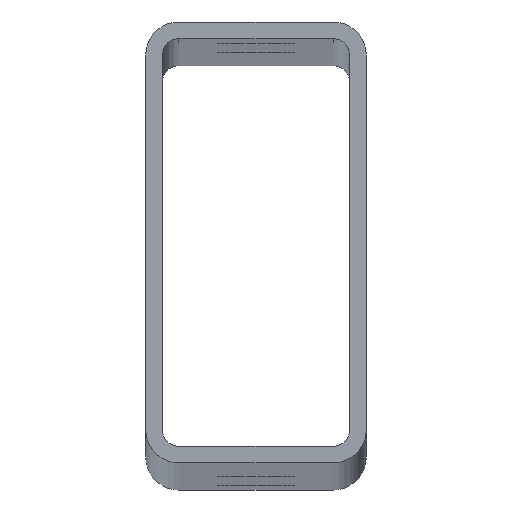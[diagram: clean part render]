
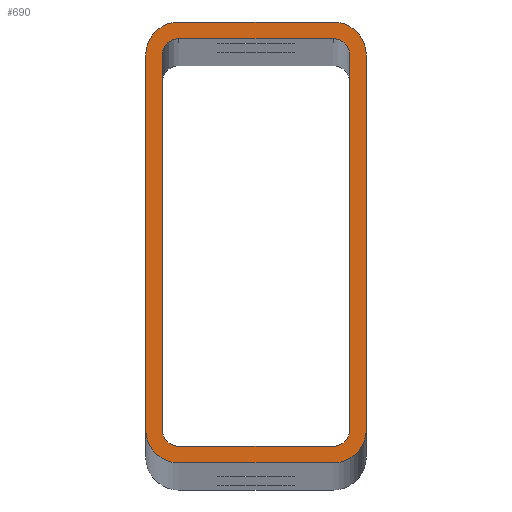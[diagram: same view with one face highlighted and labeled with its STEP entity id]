
A CAD part, top view. The second image highlights one B-rep face of the part: STEP entity #690.
In plain terms, the highlighted planar face has unit normal (0, 0, 1).
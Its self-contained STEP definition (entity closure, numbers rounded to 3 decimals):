
#5 = FACE_BOUND ( 'NONE', #612, .T. ) ;
#20 = FACE_OUTER_BOUND ( 'NONE', #1649, .T. ) ;
#27 = AXIS2_PLACEMENT_3D ( 'NONE', #1118, #1149, #484 ) ;
#34 = VERTEX_POINT ( 'NONE', #929 ) ;
#37 = CARTESIAN_POINT ( 'NONE',  ( -10., 17., 705. ) ) ;
#40 = CARTESIAN_POINT ( 'NONE',  ( 7., -17., 705. ) ) ;
#41 = LINE ( 'NONE', #419, #355 ) ;
#42 = AXIS2_PLACEMENT_3D ( 'NONE', #725, #887, #91 ) ;
#47 = CARTESIAN_POINT ( 'NONE',  ( 7., 20., 705. ) ) ;
#52 = EDGE_CURVE ( 'NONE', #1428, #1482, #520, .T. ) ;
#53 = LINE ( 'NONE', #1364, #1116 ) ;
#91 = DIRECTION ( 'NONE',  ( -1., 0., 0. ) ) ;
#121 = CARTESIAN_POINT ( 'NONE',  ( -7., -18.5, 705. ) ) ;
#123 = ORIENTED_EDGE ( 'NONE', *, *, #586, .T. ) ;
#141 = CARTESIAN_POINT ( 'NONE',  ( 10., -17., 705. ) ) ;
#144 = DIRECTION ( 'NONE',  ( 0., 0., 1. ) ) ;
#148 = VERTEX_POINT ( 'NONE', #956 ) ;
#164 = EDGE_CURVE ( 'NONE', #658, #1214, #41, .T. ) ;
#168 = CARTESIAN_POINT ( 'NONE',  ( 7., -17., 705. ) ) ;
#185 = DIRECTION ( 'NONE',  ( -1., 0., 0. ) ) ;
#198 = EDGE_CURVE ( 'NONE', #1214, #428, #933, .T. ) ;
#201 = VERTEX_POINT ( 'NONE', #449 ) ;
#207 = CIRCLE ( 'NONE', #1241, 1.5 ) ;
#254 = CARTESIAN_POINT ( 'NONE',  ( 7., 20., 705. ) ) ;
#257 = ORIENTED_EDGE ( 'NONE', *, *, #302, .F. ) ;
#278 = DIRECTION ( 'NONE',  ( 0., -1., 0. ) ) ;
#283 = DIRECTION ( 'NONE',  ( 0., 0., 1. ) ) ;
#284 = ORIENTED_EDGE ( 'NONE', *, *, #594, .T. ) ;
#285 = ORIENTED_EDGE ( 'NONE', *, *, #793, .F. ) ;
#302 = EDGE_CURVE ( 'NONE', #34, #1242, #901, .T. ) ;
#306 = DIRECTION ( 'NONE',  ( -1., 0., 0. ) ) ;
#312 = VERTEX_POINT ( 'NONE', #720 ) ;
#321 = VECTOR ( 'NONE', #1370, 1000. ) ;
#355 = VECTOR ( 'NONE', #697, 1000. ) ;
#357 = VERTEX_POINT ( 'NONE', #846 ) ;
#361 = CARTESIAN_POINT ( 'NONE',  ( -7., -20., 705. ) ) ;
#394 = ORIENTED_EDGE ( 'NONE', *, *, #803, .F. ) ;
#398 = CARTESIAN_POINT ( 'NONE',  ( -7., 18.5, 705. ) ) ;
#419 = CARTESIAN_POINT ( 'NONE',  ( 7., -20., 705. ) ) ;
#428 = VERTEX_POINT ( 'NONE', #141 ) ;
#442 = CARTESIAN_POINT ( 'NONE',  ( 8.5, 17., 705. ) ) ;
#449 = CARTESIAN_POINT ( 'NONE',  ( 7., -18.5, 705. ) ) ;
#450 = VECTOR ( 'NONE', #278, 1000. ) ;
#461 = LINE ( 'NONE', #442, #321 ) ;
#465 = ORIENTED_EDGE ( 'NONE', *, *, #1060, .F. ) ;
#484 = DIRECTION ( 'NONE',  ( 1., 0., 0. ) ) ;
#493 = ORIENTED_EDGE ( 'NONE', *, *, #1454, .F. ) ;
#520 = CIRCLE ( 'NONE', #1516, 3. ) ;
#529 = DIRECTION ( 'NONE',  ( -1., 0., 0. ) ) ;
#530 = CARTESIAN_POINT ( 'NONE',  ( 10., 17., 705. ) ) ;
#540 = ORIENTED_EDGE ( 'NONE', *, *, #1091, .F. ) ;
#552 = AXIS2_PLACEMENT_3D ( 'NONE', #1334, #283, #1066 ) ;
#586 = EDGE_CURVE ( 'NONE', #428, #1428, #906, .T. ) ;
#594 = EDGE_CURVE ( 'NONE', #1513, #148, #705, .T. ) ;
#608 = EDGE_CURVE ( 'NONE', #1482, #1513, #1392, .T. ) ;
#612 = EDGE_LOOP ( 'NONE', ( #257, #1453, #493, #394, #465, #540, #285, #979 ) ) ;
#638 = DIRECTION ( 'NONE',  ( 0., 1., 0. ) ) ;
#648 = CARTESIAN_POINT ( 'NONE',  ( 10., 17., 705. ) ) ;
#655 = DIRECTION ( 'NONE',  ( -1., 0., 0. ) ) ;
#658 = VERTEX_POINT ( 'NONE', #361 ) ;
#690 = ADVANCED_FACE ( 'NONE', ( #20, #5 ), #1318, .F. ) ;
#697 = DIRECTION ( 'NONE',  ( 1., 0., 0. ) ) ;
#705 = CIRCLE ( 'NONE', #730, 3. ) ;
#720 = CARTESIAN_POINT ( 'NONE',  ( -8.5, 17., 705. ) ) ;
#721 = VERTEX_POINT ( 'NONE', #398 ) ;
#725 = CARTESIAN_POINT ( 'NONE',  ( -7., -17., 705. ) ) ;
#730 = AXIS2_PLACEMENT_3D ( 'NONE', #1421, #1010, #1532 ) ;
#732 = VECTOR ( 'NONE', #1448, 1000. ) ;
#735 = DIRECTION ( 'NONE',  ( 0., 0., 1. ) ) ;
#774 = AXIS2_PLACEMENT_3D ( 'NONE', #40, #1621, #306 ) ;
#793 = EDGE_CURVE ( 'NONE', #721, #312, #836, .T. ) ;
#803 = EDGE_CURVE ( 'NONE', #1034, #201, #1578, .T. ) ;
#807 = CARTESIAN_POINT ( 'NONE',  ( 7., -20., 705. ) ) ;
#827 = CARTESIAN_POINT ( 'NONE',  ( -7., 20., 705. ) ) ;
#835 = AXIS2_PLACEMENT_3D ( 'NONE', #168, #1047, #529 ) ;
#836 = CIRCLE ( 'NONE', #1096, 1.5 ) ;
#846 = CARTESIAN_POINT ( 'NONE',  ( -10., -17., 705. ) ) ;
#864 = ORIENTED_EDGE ( 'NONE', *, *, #198, .T. ) ;
#887 = DIRECTION ( 'NONE',  ( 0., 0., 1. ) ) ;
#895 = CARTESIAN_POINT ( 'NONE',  ( -8.5, 17., 705. ) ) ;
#898 = CARTESIAN_POINT ( 'NONE',  ( 7., 17., 705. ) ) ;
#901 = CIRCLE ( 'NONE', #27, 1.5 ) ;
#906 = LINE ( 'NONE', #648, #1461 ) ;
#912 = CIRCLE ( 'NONE', #42, 3. ) ;
#918 = EDGE_CURVE ( 'NONE', #1099, #34, #461, .T. ) ;
#920 = DIRECTION ( 'NONE',  ( 1., 0., 0. ) ) ;
#929 = CARTESIAN_POINT ( 'NONE',  ( 8.5, 17., 705. ) ) ;
#933 = CIRCLE ( 'NONE', #552, 3. ) ;
#935 = CARTESIAN_POINT ( 'NONE',  ( 7., -18.5, 705. ) ) ;
#942 = DIRECTION ( 'NONE',  ( -1., 0., 0. ) ) ;
#950 = CARTESIAN_POINT ( 'NONE',  ( -8.5, -17., 705. ) ) ;
#956 = CARTESIAN_POINT ( 'NONE',  ( -10., 17., 705. ) ) ;
#979 = ORIENTED_EDGE ( 'NONE', *, *, #1457, .F. ) ;
#1003 = ORIENTED_EDGE ( 'NONE', *, *, #1612, .T. ) ;
#1010 = DIRECTION ( 'NONE',  ( 0., 0., 1. ) ) ;
#1027 = CARTESIAN_POINT ( 'NONE',  ( 8.5, -17., 705. ) ) ;
#1034 = VERTEX_POINT ( 'NONE', #121 ) ;
#1047 = DIRECTION ( 'NONE',  ( 0., 0., -1. ) ) ;
#1049 = DIRECTION ( 'NONE',  ( 0., 0., 1. ) ) ;
#1059 = ORIENTED_EDGE ( 'NONE', *, *, #52, .T. ) ;
#1060 = EDGE_CURVE ( 'NONE', #1489, #1034, #207, .T. ) ;
#1066 = DIRECTION ( 'NONE',  ( -1., 0., 0. ) ) ;
#1091 = EDGE_CURVE ( 'NONE', #312, #1489, #1110, .T. ) ;
#1096 = AXIS2_PLACEMENT_3D ( 'NONE', #1456, #144, #942 ) ;
#1099 = VERTEX_POINT ( 'NONE', #1027 ) ;
#1110 = LINE ( 'NONE', #895, #1406 ) ;
#1116 = VECTOR ( 'NONE', #185, 1000. ) ;
#1118 = CARTESIAN_POINT ( 'NONE',  ( 7., 17., 705. ) ) ;
#1149 = DIRECTION ( 'NONE',  ( 0., 0., 1. ) ) ;
#1150 = DIRECTION ( 'NONE',  ( 0., -1., 0. ) ) ;
#1193 = LINE ( 'NONE', #37, #450 ) ;
#1214 = VERTEX_POINT ( 'NONE', #807 ) ;
#1219 = EDGE_CURVE ( 'NONE', #148, #357, #1193, .T. ) ;
#1239 = ORIENTED_EDGE ( 'NONE', *, *, #608, .T. ) ;
#1241 = AXIS2_PLACEMENT_3D ( 'NONE', #1389, #735, #1655 ) ;
#1242 = VERTEX_POINT ( 'NONE', #1309 ) ;
#1309 = CARTESIAN_POINT ( 'NONE',  ( 7., 18.5, 705. ) ) ;
#1318 = PLANE ( 'NONE',  #835 ) ;
#1334 = CARTESIAN_POINT ( 'NONE',  ( 7., -17., 705. ) ) ;
#1337 = CIRCLE ( 'NONE', #774, 1.5 ) ;
#1364 = CARTESIAN_POINT ( 'NONE',  ( 7., 18.5, 705. ) ) ;
#1370 = DIRECTION ( 'NONE',  ( 0., 1., 0. ) ) ;
#1389 = CARTESIAN_POINT ( 'NONE',  ( -7., -17., 705. ) ) ;
#1392 = LINE ( 'NONE', #254, #1685 ) ;
#1406 = VECTOR ( 'NONE', #1150, 1000. ) ;
#1421 = CARTESIAN_POINT ( 'NONE',  ( -7., 17., 705. ) ) ;
#1428 = VERTEX_POINT ( 'NONE', #530 ) ;
#1448 = DIRECTION ( 'NONE',  ( 1., 0., 0. ) ) ;
#1453 = ORIENTED_EDGE ( 'NONE', *, *, #918, .F. ) ;
#1454 = EDGE_CURVE ( 'NONE', #201, #1099, #1337, .T. ) ;
#1456 = CARTESIAN_POINT ( 'NONE',  ( -7., 17., 705. ) ) ;
#1457 = EDGE_CURVE ( 'NONE', #1242, #721, #53, .T. ) ;
#1461 = VECTOR ( 'NONE', #638, 1000. ) ;
#1482 = VERTEX_POINT ( 'NONE', #47 ) ;
#1489 = VERTEX_POINT ( 'NONE', #950 ) ;
#1513 = VERTEX_POINT ( 'NONE', #827 ) ;
#1516 = AXIS2_PLACEMENT_3D ( 'NONE', #898, #1049, #920 ) ;
#1532 = DIRECTION ( 'NONE',  ( -1., 0., 0. ) ) ;
#1565 = ORIENTED_EDGE ( 'NONE', *, *, #1219, .T. ) ;
#1573 = ORIENTED_EDGE ( 'NONE', *, *, #164, .T. ) ;
#1578 = LINE ( 'NONE', #935, #732 ) ;
#1612 = EDGE_CURVE ( 'NONE', #357, #658, #912, .T. ) ;
#1621 = DIRECTION ( 'NONE',  ( 0., 0., 1. ) ) ;
#1649 = EDGE_LOOP ( 'NONE', ( #864, #123, #1059, #1239, #284, #1565, #1003, #1573 ) ) ;
#1655 = DIRECTION ( 'NONE',  ( -1., 0., 0. ) ) ;
#1685 = VECTOR ( 'NONE', #655, 1000. ) ;
